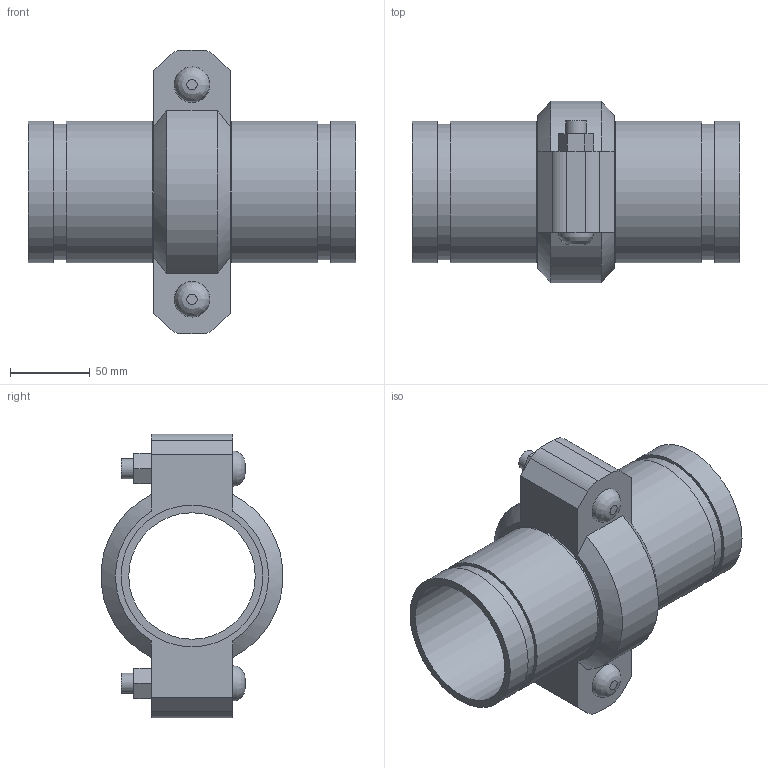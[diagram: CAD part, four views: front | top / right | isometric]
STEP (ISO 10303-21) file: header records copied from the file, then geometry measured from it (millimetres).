
FILE_DESCRIPTION(/* description */ ('VIC SS EXPANSION JOINT 1 COUPLING NEUTRAL STYLE 155P (OGS) (POTABLE WATER) ','CAx-IF Rec.Pracs.---Representation and Presentation of Product Manufacturing Information (PMI)---4.0---2014-10-13'),/* implementation_level */ '2;1');
FILE_NAME(/* name */ 'C:\Users\kkamble\AppData\Roaming\Autodesk\ApplicationPlugins\Victaulic.Temp\A585\Victaulic_SS_Expansion Joint_Neutral_1 Coupling_Style 155P (OGS)-Potable Water_1 Coup_Neut_3 (80).stp',/* time_stamp */ '2021-07-16T16:25:50+06:00',/* author */ ('kkamble'),/* organization */ ('Victaulic'),/* preprocessor_version */ 'ST-DEVELOPER v17.2',/* originating_system */ 'Autodesk Inventor 2019',/* authorisation */ '');
FILE_SCHEMA (('AP242_MANAGED_MODEL_BASED_3D_ENGINEERING_MIM_LF { 1 0 10303 442 1 1 4 }'));
Length unit declared in the file: inch
Products named in the file (3): 155P-03.0; Nipple-03.0; 075-03.0
Assembly tree (3 placements, depth 2):
  155P-03.0
    Nipple-03.0  x2
    075-03.0
Bounding box: 205.49 x 113.88 x 177.8 mm (x, y, z)
Volume: 572765.1 mm3; surface area: 177407.3 mm2
Topology: 3 solids, 5 shells, 81 faces, 193 edges, 138 vertices
Faces by surface type: plane 48, cylinder 27, cone 4, bspline 2
Full cylindrical faces by diameter (mm): 12.7 x4, 14.605 x2, 79.35 x2, 82.55 x1, 84.938 x4, 88.9 x8
Entity records: 2292 total; most frequent: CARTESIAN_POINT 420, DIRECTION 369, ORIENTED_EDGE 326, EDGE_CURVE 163, AXIS2_PLACEMENT_3D 141, VERTEX_POINT 114, EDGE_LOOP 89, LINE 87
